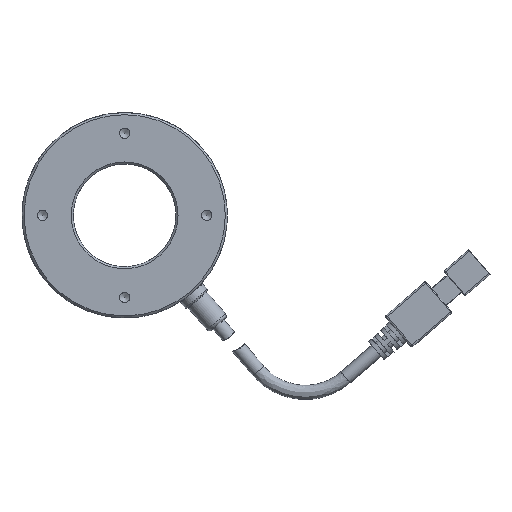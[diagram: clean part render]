
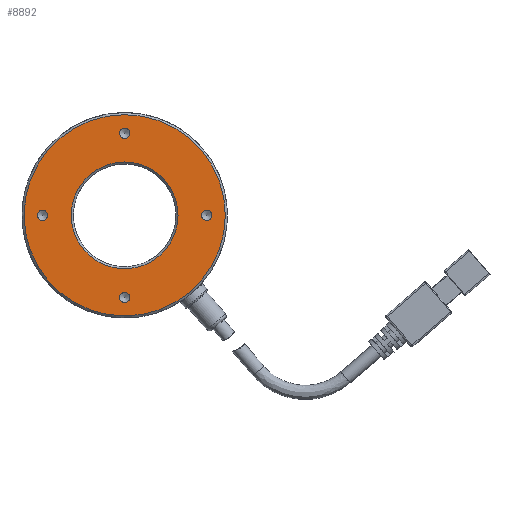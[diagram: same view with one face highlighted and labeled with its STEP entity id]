
A CAD part, front view. The second image highlights one B-rep face of the part: STEP entity #8892.
In plain terms, the highlighted planar face has unit normal (0, -1, 0).
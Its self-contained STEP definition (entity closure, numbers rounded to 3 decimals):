
#18 = CARTESIAN_POINT ( 'NONE',  ( 0., 0., -25. ) ) ;
#88 = DIRECTION ( 'NONE',  ( 0., 0., 1. ) ) ;
#401 = EDGE_CURVE ( 'NONE', #2858, #2858, #14764, .T. ) ;
#719 = CARTESIAN_POINT ( 'NONE',  ( 0., 0., -20. ) ) ;
#1111 = CARTESIAN_POINT ( 'NONE',  ( 0., 0., -13. ) ) ;
#1310 = DIRECTION ( 'NONE',  ( 0., 0., 1. ) ) ;
#1624 = PLANE ( 'NONE',  #19167 ) ;
#2075 = DIRECTION ( 'NONE',  ( 0., 0., 1. ) ) ;
#2305 = VERTEX_POINT ( 'NONE', #10760 ) ;
#2423 = DIRECTION ( 'NONE',  ( 0., -1., 0. ) ) ;
#2478 = ORIENTED_EDGE ( 'NONE', *, *, #12177, .F. ) ;
#2565 = FACE_BOUND ( 'NONE', #19019, .T. ) ;
#2687 = DIRECTION ( 'NONE',  ( 0., 1., 0. ) ) ;
#2858 = VERTEX_POINT ( 'NONE', #10466 ) ;
#3089 = FACE_OUTER_BOUND ( 'NONE', #3132, .T. ) ;
#3132 = EDGE_LOOP ( 'NONE', ( #2478 ) ) ;
#3922 = DIRECTION ( 'NONE',  ( 0., 1., 0. ) ) ;
#4395 = EDGE_LOOP ( 'NONE', ( #11732 ) ) ;
#4500 = CARTESIAN_POINT ( 'NONE',  ( -20., 0., 0. ) ) ;
#5177 = CIRCLE ( 'NONE', #5759, 24.5 ) ;
#5435 = CARTESIAN_POINT ( 'NONE',  ( 20., 0., 1.25 ) ) ;
#5759 = AXIS2_PLACEMENT_3D ( 'NONE', #9305, #7850, #12743 ) ;
#6835 = EDGE_CURVE ( 'NONE', #20608, #20608, #20728, .T. ) ;
#7003 = DIRECTION ( 'NONE',  ( 0., 1., 0. ) ) ;
#7026 = EDGE_LOOP ( 'NONE', ( #14872 ) ) ;
#7850 = DIRECTION ( 'NONE',  ( 0., 1., 0. ) ) ;
#7907 = CARTESIAN_POINT ( 'NONE',  ( 0., 0., 20. ) ) ;
#8747 = EDGE_CURVE ( 'NONE', #20863, #20863, #17415, .T. ) ;
#8790 = FACE_BOUND ( 'NONE', #10520, .T. ) ;
#8892 = ADVANCED_FACE ( 'NONE', ( #3089, #9320, #20315, #15870, #2565, #8790 ), #1624, .F. ) ;
#8960 = CARTESIAN_POINT ( 'NONE',  ( 0., 0., 0. ) ) ;
#9305 = CARTESIAN_POINT ( 'NONE',  ( 0., 0., 0. ) ) ;
#9320 = FACE_BOUND ( 'NONE', #21370, .T. ) ;
#9362 = CIRCLE ( 'NONE', #14391, 1.25 ) ;
#9615 = CIRCLE ( 'NONE', #16952, 13. ) ;
#10341 = ORIENTED_EDGE ( 'NONE', *, *, #21613, .T. ) ;
#10466 = CARTESIAN_POINT ( 'NONE',  ( 0., 0., 21.25 ) ) ;
#10520 = EDGE_LOOP ( 'NONE', ( #19683 ) ) ;
#10760 = CARTESIAN_POINT ( 'NONE',  ( 0., 0., 24.5 ) ) ;
#11318 = AXIS2_PLACEMENT_3D ( 'NONE', #13591, #7003, #2075 ) ;
#11732 = ORIENTED_EDGE ( 'NONE', *, *, #401, .T. ) ;
#11788 = DIRECTION ( 'NONE',  ( 0., 0., -1. ) ) ;
#12005 = AXIS2_PLACEMENT_3D ( 'NONE', #7907, #12723, #1310 ) ;
#12177 = EDGE_CURVE ( 'NONE', #2305, #2305, #5177, .T. ) ;
#12372 = DIRECTION ( 'NONE',  ( 0., 0., 1. ) ) ;
#12694 = EDGE_CURVE ( 'NONE', #17185, #17185, #9615, .T. ) ;
#12723 = DIRECTION ( 'NONE',  ( 0., 1., 0. ) ) ;
#12743 = DIRECTION ( 'NONE',  ( 0., 0., 1. ) ) ;
#12804 = DIRECTION ( 'NONE',  ( 0., 0., 1. ) ) ;
#13591 = CARTESIAN_POINT ( 'NONE',  ( 20., 0., 0. ) ) ;
#14370 = CARTESIAN_POINT ( 'NONE',  ( 0., 0., -18.75 ) ) ;
#14391 = AXIS2_PLACEMENT_3D ( 'NONE', #719, #3922, #12372 ) ;
#14572 = VERTEX_POINT ( 'NONE', #14370 ) ;
#14764 = CIRCLE ( 'NONE', #12005, 1.25 ) ;
#14872 = ORIENTED_EDGE ( 'NONE', *, *, #6835, .T. ) ;
#15870 = FACE_BOUND ( 'NONE', #7026, .T. ) ;
#16952 = AXIS2_PLACEMENT_3D ( 'NONE', #8960, #2423, #11788 ) ;
#17185 = VERTEX_POINT ( 'NONE', #1111 ) ;
#17415 = CIRCLE ( 'NONE', #11318, 1.25 ) ;
#18771 = ORIENTED_EDGE ( 'NONE', *, *, #12694, .F. ) ;
#19019 = EDGE_LOOP ( 'NONE', ( #10341 ) ) ;
#19167 = AXIS2_PLACEMENT_3D ( 'NONE', #18, #21581, #88 ) ;
#19185 = CARTESIAN_POINT ( 'NONE',  ( -20., 0., 1.25 ) ) ;
#19683 = ORIENTED_EDGE ( 'NONE', *, *, #8747, .T. ) ;
#20315 = FACE_BOUND ( 'NONE', #4395, .T. ) ;
#20608 = VERTEX_POINT ( 'NONE', #19185 ) ;
#20728 = CIRCLE ( 'NONE', #21481, 1.25 ) ;
#20863 = VERTEX_POINT ( 'NONE', #5435 ) ;
#21370 = EDGE_LOOP ( 'NONE', ( #18771 ) ) ;
#21481 = AXIS2_PLACEMENT_3D ( 'NONE', #4500, #2687, #12804 ) ;
#21581 = DIRECTION ( 'NONE',  ( 0., 1., 0. ) ) ;
#21613 = EDGE_CURVE ( 'NONE', #14572, #14572, #9362, .T. ) ;
